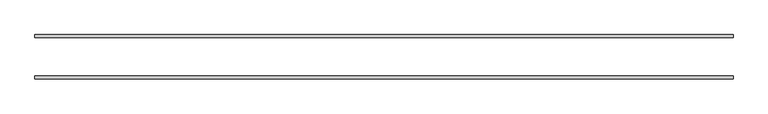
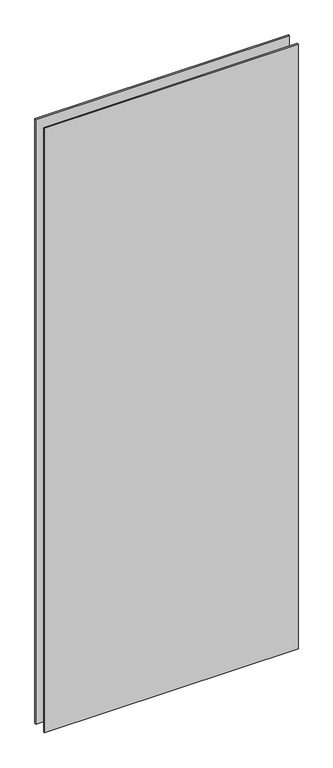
"""IFC4 building model written with IfcOpenShell, lengths in millimetres: plate geometry, VERTI ELEMENT - prosklená výplň : Prosklená výplň."""

import ifcopenshell
import ifcopenshell.guid

model = None  # the IFC model being written
_history = None  # IfcOwnerHistory: only IFC2X3 demands one
_inside = {}  # id of a spatial element -> (the spatial element, [elements in it])
_under = {}  # id of a project, library or spatial element -> (it, [spatial elements below it])
_declared = {}  # id of a project -> (the project, [libraries it declares])
_typed = {}  # id of a type object -> (the type object, [elements of that type])
_made_of = {}  # id of a material, layer set ... -> (it, [elements and type objects made of it])


def new_model(schema):
    """Start an empty IFC model of exactly this schema.

    Asked for "IFC4X3", IfcOpenShell would pick the latest addendum, in which some entities
    have other attributes; the version numbers below select the first issue.
    IFC2X3 requires an IfcOwnerHistory on every rooted entity: one is made here for all.
    """
    global model, _history
    if schema == "IFC4X3":
        model = ifcopenshell.file(schema_version=(4, 3, 0, 0))
    else:
        model = ifcopenshell.file(schema=schema)
    _inside.clear()
    _under.clear()
    _declared.clear()
    _typed.clear()
    _made_of.clear()
    _history = None
    if model.schema == "IFC2X3":
        org = make("IfcOrganization", Name="unknown")
        user = make(
            "IfcPersonAndOrganization",
            ThePerson=make("IfcPerson", FamilyName="unknown"),
            TheOrganization=org,
        )
        app = make(
            "IfcApplication",
            ApplicationDeveloper=org,
            Version="unknown",
            ApplicationFullName="unknown",
            ApplicationIdentifier="unknown",
        )
        _history = make(
            "IfcOwnerHistory",
            OwningUser=user,
            OwningApplication=app,
            ChangeAction="ADDED",
            CreationDate=0,
        )
    return model


def make(cls, **values):
    """One entity of the class cls with the attributes given. An attribute that is None is left unset."""
    return model.create_entity(
        cls, **{name: value for name, value in values.items() if value is not None}
    )


def rooted(cls, **values):
    """An entity with a GlobalId (a new one), such as an element, a storey or a relation."""
    return make(cls, GlobalId=ifcopenshell.guid.new(), OwnerHistory=_history, **values)


def si_unit(unit_type, name, prefix=None):
    """IfcSIUnit, for example si_unit("LENGTHUNIT", "METRE", prefix="MILLI")."""
    return make("IfcSIUnit", UnitType=unit_type, Prefix=prefix, Name=name)


def assignment(units):
    """IfcUnitAssignment: the units of a project."""
    return None if units is None else make("IfcUnitAssignment", Units=units)


def point(xyz):
    """IfcCartesianPoint."""
    return None if xyz is None else make("IfcCartesianPoint", Coordinates=xyz)


def direction(xyz):
    """IfcDirection."""
    return None if xyz is None else make("IfcDirection", DirectionRatios=xyz)


def frame(location, z_axis=None, x_axis=None):
    """IfcAxis2Placement3D, a coordinate frame: its origin and axes. An axis left out is left unset."""
    return make(
        "IfcAxis2Placement3D",
        Location=point(location),
        Axis=direction(z_axis),
        RefDirection=direction(x_axis),
    )


def origin():
    """The frame at (0, 0, 0) with its axes left unset."""
    return frame((0.0, 0.0, 0.0))


def origin_with_axes():
    """The frame at (0, 0, 0) with the z axis (0, 0, 1) and the x axis (1, 0, 0) written out."""
    return frame((0.0, 0.0, 0.0), z_axis=(0.0, 0.0, 1.0), x_axis=(1.0, 0.0, 0.0))


def place(relative_to, where):
    """IfcLocalPlacement: puts the frame where relative to a parent placement (None: the world)."""
    return make(
        "IfcLocalPlacement", PlacementRelTo=relative_to, RelativePlacement=where
    )


def context(
    kind, dimensions, precision=None, world=None, true_north=None, identifier=None
):
    """IfcGeometricRepresentationContext, for example the 3D "Model" context."""
    return make(
        "IfcGeometricRepresentationContext",
        ContextIdentifier=identifier,
        ContextType=kind,
        CoordinateSpaceDimension=dimensions,
        Precision=precision,
        WorldCoordinateSystem=world,
        TrueNorth=true_north,
    )


def project(units=None, contexts=None):
    """IfcProject with its units and contexts."""
    return rooted(
        "IfcProject",
        Name="project",
        RepresentationContexts=contexts,
        UnitsInContext=assignment(units),
    )


def spatial(cls, under=None, at=None, **own):
    """A site, building, storey or space (cls), placed at a placement, below another one or the project."""
    s = rooted(cls, ObjectPlacement=at, **own)
    if under is not None:
        _under.setdefault(under.id(), (under, []))[1].append(s)
    return s


def polyline(points):
    """IfcPolyline through the points."""
    return make("IfcPolyline", Points=[point(p) for p in points])


def outline(outer, holes=None, kind="AREA"):
    """IfcArbitraryClosedProfileDef: a profile drawn as a closed curve; with holes, ...WithVoids."""
    if holes is None:
        return make("IfcArbitraryClosedProfileDef", ProfileType=kind, OuterCurve=outer)
    return make(
        "IfcArbitraryProfileDefWithVoids",
        ProfileType=kind,
        OuterCurve=outer,
        InnerCurves=holes,
    )


def extrude(swept, where, along, depth):
    """IfcExtrudedAreaSolid: the profile swept, set in the frame where, extruded along a direction by depth."""
    return make(
        "IfcExtrudedAreaSolid",
        SweptArea=swept,
        Position=where,
        ExtrudedDirection=direction(along),
        Depth=depth,
    )


def shape(context_of_items, identifier, shape_type, items):
    """IfcShapeRepresentation: the items that make up one representation, for example the "Body"."""
    return make(
        "IfcShapeRepresentation",
        ContextOfItems=context_of_items,
        RepresentationIdentifier=identifier,
        RepresentationType=shape_type,
        Items=items,
    )


def source(mapping_origin, context_of_items, identifier, shape_type, items):
    """IfcRepresentationMap: a shape defined once, which mapped items show again and again."""
    return make(
        "IfcRepresentationMap",
        MappingOrigin=mapping_origin,
        MappedRepresentation=shape(context_of_items, identifier, shape_type, items),
    )


def transform(
    local_origin,
    x_axis=None,
    y_axis=None,
    z_axis=None,
    scale=None,
    scale2=None,
    scale3=None,
    uniform=True,
):
    """IfcCartesianTransformationOperator3D, or its non-uniform kind. x_axis, y_axis, z_axis: its Axis1, 2, 3."""
    if uniform:
        return make(
            "IfcCartesianTransformationOperator3D",
            Axis1=direction(x_axis),
            Axis2=direction(y_axis),
            LocalOrigin=point(local_origin),
            Scale=scale,
            Axis3=direction(z_axis),
        )
    return make(
        "IfcCartesianTransformationOperator3DnonUniform",
        Axis1=direction(x_axis),
        Axis2=direction(y_axis),
        LocalOrigin=point(local_origin),
        Scale=scale,
        Axis3=direction(z_axis),
        Scale2=scale2,
        Scale3=scale3,
    )


def mapped(mapping_source, mapping_target):
    """IfcMappedItem: shows the shape of a source again, moved by a transform."""
    return make(
        "IfcMappedItem", MappingSource=mapping_source, MappingTarget=mapping_target
    )


def made_of(thing, what):
    """Note that an element or type object is made of a material, layer set ...; save() writes the relation."""
    if what is not None:
        _made_of.setdefault(what.id(), (what, []))[1].append(thing)
    return thing


def element(
    cls,
    number,
    at=None,
    inside=None,
    cuts=None,
    type_object=None,
    material=None,
    context=None,
    identifier="Body",
    shape_type=None,
    held_by="IfcProductDefinitionShape",
    body=None,
    shapes=None,
    **own,
):
    """One element of the class cls, such as IfcWall. Its Tag is "e" and its number.

    at: its placement. inside: the storey or other place that contains it. cuts: it is an
    opening in that element (IfcRelVoidsElement). A single representation is given by context,
    identifier, shape_type and body (its items); several are given by shapes. held_by: the class
    of the entity that holds the representations. save() writes the other relations.
    """
    e = rooted(cls, Tag="e%d" % number, ObjectPlacement=at, **own)
    if body is not None:
        shapes = [shape(context, identifier, shape_type, body)]
    if shapes is not None:
        e.Representation = make(held_by, Representations=shapes)
    if inside is not None:
        _inside.setdefault(inside.id(), (inside, []))[1].append(e)
    if cuts is not None:
        rooted(
            "IfcRelVoidsElement", RelatingBuildingElement=cuts, RelatedOpeningElement=e
        )
    if type_object is not None:
        _typed.setdefault(type_object.id(), (type_object, []))[1].append(e)
    return made_of(e, material)


def aggregate(whole, parts):
    """IfcRelAggregates: a whole, such as a stair, and the parts it consists of."""
    return rooted("IfcRelAggregates", RelatingObject=whole, RelatedObjects=parts)


def save(model, path):
    """Write the relations noted so far, then the file.

    IfcRelAggregates (storeys below a building ...), IfcRelContainedInSpatialStructure (elements
    in a storey), IfcRelDefinesByType, IfcRelAssociatesMaterial and IfcRelDeclares: one each for
    every whole, place, type object, material and project.
    """
    for whole, parts in _under.values():
        aggregate(whole, parts)
    for where, things in _inside.values():
        rooted(
            "IfcRelContainedInSpatialStructure",
            RelatedElements=things,
            RelatingStructure=where,
        )
    for kind, things in _typed.values():
        rooted("IfcRelDefinesByType", RelatedObjects=things, RelatingType=kind)
    for what, things in _made_of.values():
        rooted("IfcRelAssociatesMaterial", RelatedObjects=things, RelatingMaterial=what)
    for by, libraries in _declared.values():
        rooted("IfcRelDeclares", RelatingContext=by, RelatedDefinitions=libraries)
    model.write(path)


def plate_90d12585(model_context):
    return source(origin(), model_context, "Body", "SweptSolid", [
        extrude(outline(polyline([(-577.5, -36.5), (-577.5, -31.5), (577.5, -31.5), (577.5, -36.5), (-577.5, -36.5)])), origin_with_axes(), (0.0, 0.0, 1.0), 2910.0),
        extrude(outline(polyline([(577.5, 36.5), (577.5, 31.5), (-577.5, 31.5), (-577.5, 36.5), (577.5, 36.5)])), origin_with_axes(), (0.0, 0.0, 1.0), 2910.0),
    ])


if __name__ == "__main__":
    model = new_model("IFC4")
    model_context = context("Model", 3, world=origin())
    ifc_project = project(units=[si_unit("LENGTHUNIT", "METRE", prefix="MILLI")], contexts=[model_context])
    site = spatial("IfcSite", under=ifc_project)
    building = spatial("IfcBuilding", under=site)
    placement = place(None, origin())
    plate_shape = plate_90d12585(model_context)
    element("IfcPlate", 1, ObjectType="VERTI ELEMENT - prosklená výplň : Prosklená výplň", at=placement, inside=building, context=model_context, shape_type="MappedRepresentation", body=[
        mapped(plate_shape, transform((0.0, 0.0, 0.0), x_axis=(1.0, 0.0, 0.0), y_axis=(0.0, 1.0, 0.0), z_axis=(0.0, 0.0, 1.0))),
    ])
    save(model, "model.ifc")
